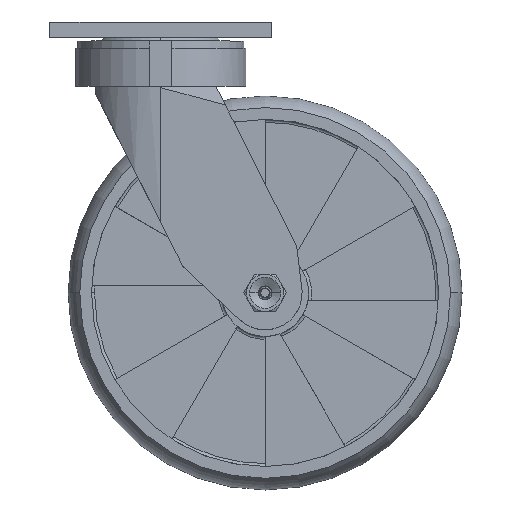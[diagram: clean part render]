
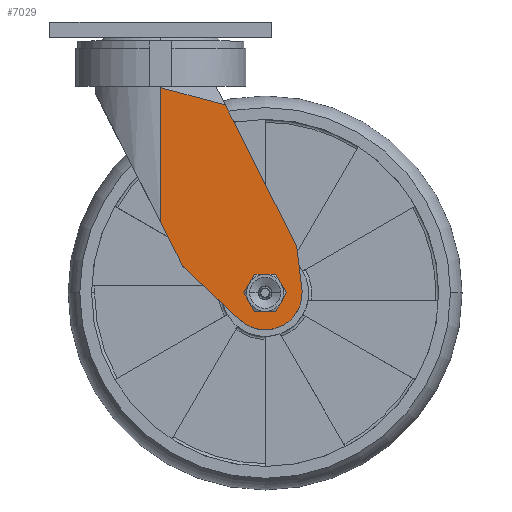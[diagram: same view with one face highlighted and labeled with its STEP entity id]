
A CAD part, top view. The second image highlights one B-rep face of the part: STEP entity #7029.
In plain terms, the highlighted planar face has unit normal (0, 0, 1).
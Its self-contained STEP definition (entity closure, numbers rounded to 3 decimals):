
#25 = DIRECTION ( 'NONE',  ( 0., 0., 1. ) ) ;
#130 = VERTEX_POINT ( 'NONE', #462 ) ;
#147 = VERTEX_POINT ( 'NONE', #2327 ) ;
#189 = VERTEX_POINT ( 'NONE', #4083 ) ;
#286 = VECTOR ( 'NONE', #2735, 1000. ) ;
#462 = CARTESIAN_POINT ( 'NONE',  ( 0., -70.446, 37.592 ) ) ;
#504 = AXIS2_PLACEMENT_3D ( 'NONE', #6393, #25, #8129 ) ;
#644 = DIRECTION ( 'NONE',  ( 1., 0., 0. ) ) ;
#736 = AXIS2_PLACEMENT_3D ( 'NONE', #1443, #5016, #10451 ) ;
#815 = CIRCLE ( 'NONE', #10906, 19.05 ) ;
#816 = ORIENTED_EDGE ( 'NONE', *, *, #10014, .F. ) ;
#1059 = EDGE_CURVE ( 'NONE', #1758, #5601, #3143, .T. ) ;
#1226 = EDGE_CURVE ( 'NONE', #5601, #1758, #4119, .T. ) ;
#1379 = VECTOR ( 'NONE', #7084, 1000. ) ;
#1417 = CARTESIAN_POINT ( 'NONE',  ( 87.816, -230.847, 37.592 ) ) ;
#1443 = CARTESIAN_POINT ( 'NONE',  ( 53.848, -106.655, 37.592 ) ) ;
#1723 = CARTESIAN_POINT ( 'NONE',  ( 79.392, -156.79, 37.592 ) ) ;
#1758 = VERTEX_POINT ( 'NONE', #7788 ) ;
#1793 = LINE ( 'NONE', #8886, #1379 ) ;
#2308 = ORIENTED_EDGE ( 'NONE', *, *, #6180, .F. ) ;
#2327 = CARTESIAN_POINT ( 'NONE',  ( 72.898, -106.655, 37.592 ) ) ;
#2494 = ORIENTED_EDGE ( 'NONE', *, *, #1226, .F. ) ;
#2735 = DIRECTION ( 'NONE',  ( -0.729, 0.685, 0. ) ) ;
#2738 = EDGE_CURVE ( 'NONE', #147, #6326, #815, .T. ) ;
#2854 = CARTESIAN_POINT ( 'NONE',  ( 119.755, -180.838, 37.592 ) ) ;
#2888 = DIRECTION ( 'NONE',  ( 0.451, -0.893, 0. ) ) ;
#2948 = DIRECTION ( 'NONE',  ( -0.966, 0.259, 0. ) ) ;
#2969 = EDGE_CURVE ( 'NONE', #130, #11197, #7331, .T. ) ;
#3010 = ORIENTED_EDGE ( 'NONE', *, *, #9945, .F. ) ;
#3143 = CIRCLE ( 'NONE', #504, 6.604 ) ;
#3169 = CARTESIAN_POINT ( 'NONE',  ( 40.805, -120.539, 37.592 ) ) ;
#3174 = CARTESIAN_POINT ( 'NONE',  ( 0., -0.796, 37.592 ) ) ;
#3194 = EDGE_LOOP ( 'NONE', ( #2308, #10450, #9587, #9656, #10991, #4040, #816, #3010 ) ) ;
#3529 = EDGE_CURVE ( 'NONE', #8208, #11197, #7764, .T. ) ;
#3633 = CARTESIAN_POINT ( 'NONE',  ( 0., -241.3, 37.592 ) ) ;
#3836 = CARTESIAN_POINT ( 'NONE',  ( 0., -241.3, 37.592 ) ) ;
#4040 = ORIENTED_EDGE ( 'NONE', *, *, #2738, .F. ) ;
#4083 = CARTESIAN_POINT ( 'NONE',  ( 70.173, -82.631, 37.592 ) ) ;
#4119 = CIRCLE ( 'NONE', #736, 6.604 ) ;
#4300 = DIRECTION ( 'NONE',  ( 0., -1., 0. ) ) ;
#4594 = PLANE ( 'NONE',  #5694 ) ;
#4770 = DIRECTION ( 'NONE',  ( 0., 1., 0. ) ) ;
#5016 = DIRECTION ( 'NONE',  ( 0., 0., 1. ) ) ;
#5374 = VECTOR ( 'NONE', #2948, 1000. ) ;
#5375 = CARTESIAN_POINT ( 'NONE',  ( 60.126, -16.907, 37.592 ) ) ;
#5592 = VERTEX_POINT ( 'NONE', #7679 ) ;
#5601 = VERTEX_POINT ( 'NONE', #9333 ) ;
#5694 = AXIS2_PLACEMENT_3D ( 'NONE', #3633, #7206, #9894 ) ;
#5869 = VERTEX_POINT ( 'NONE', #8775 ) ;
#5996 = EDGE_CURVE ( 'NONE', #6326, #5869, #8657, .T. ) ;
#6122 = FACE_BOUND ( 'NONE', #11453, .T. ) ;
#6180 = EDGE_CURVE ( 'NONE', #8208, #189, #10212, .T. ) ;
#6193 = LINE ( 'NONE', #11484, #10836 ) ;
#6326 = VERTEX_POINT ( 'NONE', #3169 ) ;
#6393 = CARTESIAN_POINT ( 'NONE',  ( 53.848, -106.655, 37.592 ) ) ;
#6780 = VECTOR ( 'NONE', #4770, 1000. ) ;
#6873 = DIRECTION ( 'NONE',  ( 0.118, -0.993, 0. ) ) ;
#6957 = ORIENTED_EDGE ( 'NONE', *, *, #1059, .F. ) ;
#7029 = ADVANCED_FACE ( 'NONE', ( #10765, #6122 ), #4594, .T. ) ;
#7084 = DIRECTION ( 'NONE',  ( -0.451, 0.893, 0. ) ) ;
#7206 = DIRECTION ( 'NONE',  ( 0., 0., 1. ) ) ;
#7246 = VECTOR ( 'NONE', #2888, 1000. ) ;
#7331 = LINE ( 'NONE', #3836, #6780 ) ;
#7553 = CARTESIAN_POINT ( 'NONE',  ( 33.37, -9.738, 37.592 ) ) ;
#7679 = CARTESIAN_POINT ( 'NONE',  ( 72.898, -105.525, 37.592 ) ) ;
#7764 = LINE ( 'NONE', #5375, #5374 ) ;
#7788 = CARTESIAN_POINT ( 'NONE',  ( 60.452, -106.655, 37.592 ) ) ;
#8129 = DIRECTION ( 'NONE',  ( 1., 0., 0. ) ) ;
#8208 = VERTEX_POINT ( 'NONE', #7553 ) ;
#8657 = LINE ( 'NONE', #1723, #286 ) ;
#8775 = CARTESIAN_POINT ( 'NONE',  ( 11.293, -92.815, 37.592 ) ) ;
#8873 = EDGE_CURVE ( 'NONE', #5869, #130, #1793, .T. ) ;
#8886 = CARTESIAN_POINT ( 'NONE',  ( 68.739, -206.595, 37.592 ) ) ;
#9333 = CARTESIAN_POINT ( 'NONE',  ( 47.244, -106.655, 37.592 ) ) ;
#9587 = ORIENTED_EDGE ( 'NONE', *, *, #2969, .F. ) ;
#9656 = ORIENTED_EDGE ( 'NONE', *, *, #8873, .F. ) ;
#9804 = DIRECTION ( 'NONE',  ( 0., 0., -1. ) ) ;
#9894 = DIRECTION ( 'NONE',  ( 1., 0., 0. ) ) ;
#9945 = EDGE_CURVE ( 'NONE', #189, #5592, #11399, .T. ) ;
#10014 = EDGE_CURVE ( 'NONE', #5592, #147, #6193, .T. ) ;
#10212 = LINE ( 'NONE', #2854, #7246 ) ;
#10450 = ORIENTED_EDGE ( 'NONE', *, *, #3529, .T. ) ;
#10451 = DIRECTION ( 'NONE',  ( 1., 0., 0. ) ) ;
#10669 = CARTESIAN_POINT ( 'NONE',  ( 53.848, -106.655, 37.592 ) ) ;
#10765 = FACE_OUTER_BOUND ( 'NONE', #3194, .T. ) ;
#10836 = VECTOR ( 'NONE', #4300, 1000. ) ;
#10906 = AXIS2_PLACEMENT_3D ( 'NONE', #10669, #9804, #644 ) ;
#10991 = ORIENTED_EDGE ( 'NONE', *, *, #5996, .F. ) ;
#11197 = VERTEX_POINT ( 'NONE', #3174 ) ;
#11399 = LINE ( 'NONE', #1417, #11559 ) ;
#11453 = EDGE_LOOP ( 'NONE', ( #2494, #6957 ) ) ;
#11484 = CARTESIAN_POINT ( 'NONE',  ( 72.898, -241.3, 37.592 ) ) ;
#11559 = VECTOR ( 'NONE', #6873, 1000. ) ;
